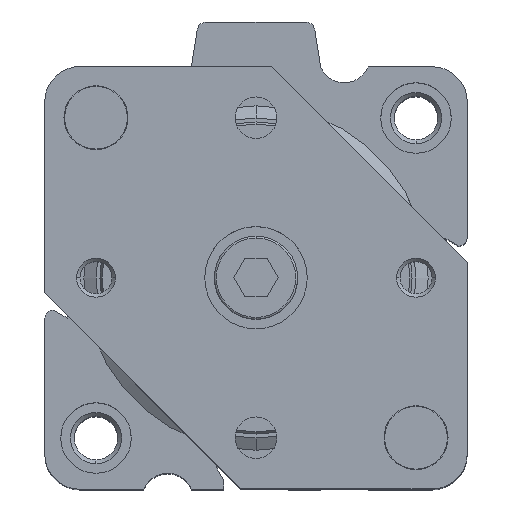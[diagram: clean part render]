
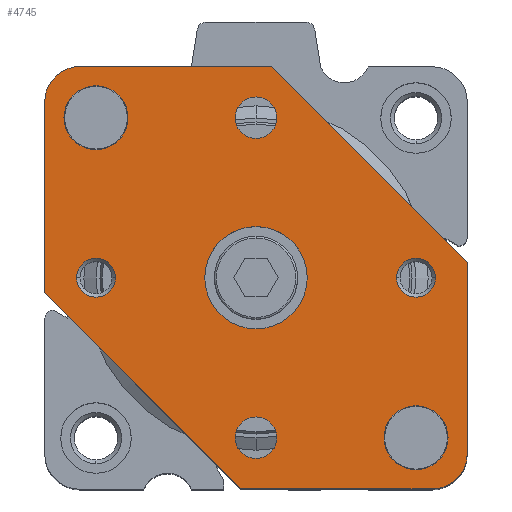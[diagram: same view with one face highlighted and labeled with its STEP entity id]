
A CAD part, top view. The second image highlights one B-rep face of the part: STEP entity #4745.
In plain terms, the highlighted planar face has unit normal (0, 0, 1).
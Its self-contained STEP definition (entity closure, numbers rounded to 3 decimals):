
#3685=CARTESIAN_POINT('',(0.,25.,0.));
#3686=DIRECTION('',(0.,0.,1.));
#3687=DIRECTION('',(-1.,0.,0.));
#3688=AXIS2_PLACEMENT_3D('',#3685,#3686,#3687);
#3690=CARTESIAN_POINT('',(0.,25.,0.));
#3691=DIRECTION('',(0.,0.,1.));
#3692=DIRECTION('',(1.,0.,0.));
#3693=AXIS2_PLACEMENT_3D('',#3690,#3691,#3692);
#3695=CARTESIAN_POINT('',(0.,-25.,0.));
#3696=DIRECTION('',(0.,0.,1.));
#3697=DIRECTION('',(-1.,0.,0.));
#3698=AXIS2_PLACEMENT_3D('',#3695,#3696,#3697);
#3700=CARTESIAN_POINT('',(0.,-25.,0.));
#3701=DIRECTION('',(0.,0.,1.));
#3702=DIRECTION('',(1.,0.,0.));
#3703=AXIS2_PLACEMENT_3D('',#3700,#3701,#3702);
#3705=DIRECTION('',(0.707,-0.707,0.));
#3706=VECTOR('',#3705,43.338);
#3707=CARTESIAN_POINT('',(2.355,33.,0.));
#3708=LINE('',#3707,#3706);
#3709=DIRECTION('',(0.,-1.,0.));
#3710=VECTOR('',#3709,29.855);
#3711=CARTESIAN_POINT('',(33.,2.355,0.));
#3712=LINE('',#3711,#3710);
#3713=CARTESIAN_POINT('',(27.5,-27.5,0.));
#3714=DIRECTION('',(0.,0.,-1.));
#3715=DIRECTION('',(1.,0.,0.));
#3716=AXIS2_PLACEMENT_3D('',#3713,#3714,#3715);
#3718=DIRECTION('',(-1.,0.,0.));
#3719=VECTOR('',#3718,29.855);
#3720=CARTESIAN_POINT('',(27.5,-33.,0.));
#3721=LINE('',#3720,#3719);
#3722=DIRECTION('',(-0.707,0.707,0.));
#3723=VECTOR('',#3722,43.338);
#3724=CARTESIAN_POINT('',(-2.355,-33.,0.));
#3725=LINE('',#3724,#3723);
#3726=DIRECTION('',(0.,1.,0.));
#3727=VECTOR('',#3726,29.855);
#3728=CARTESIAN_POINT('',(-33.,-2.355,0.));
#3729=LINE('',#3728,#3727);
#3730=CARTESIAN_POINT('',(-27.5,27.5,0.));
#3731=DIRECTION('',(0.,0.,-1.));
#3732=DIRECTION('',(-1.,0.,0.));
#3733=AXIS2_PLACEMENT_3D('',#3730,#3731,#3732);
#3735=DIRECTION('',(1.,0.,0.));
#3736=VECTOR('',#3735,29.855);
#3737=CARTESIAN_POINT('',(-27.5,33.,0.));
#3738=LINE('',#3737,#3736);
#3739=CARTESIAN_POINT('',(0.,0.,0.));
#3740=DIRECTION('',(0.,0.,1.));
#3741=DIRECTION('',(0.,1.,0.));
#3742=AXIS2_PLACEMENT_3D('',#3739,#3740,#3741);
#3744=CARTESIAN_POINT('',(0.,0.,0.));
#3745=DIRECTION('',(0.,0.,1.));
#3746=DIRECTION('',(0.,-1.,0.));
#3747=AXIS2_PLACEMENT_3D('',#3744,#3745,#3746);
#3759=CARTESIAN_POINT('',(-25.,25.,0.));
#3760=DIRECTION('',(0.,0.,1.));
#3761=DIRECTION('',(1.,0.,0.));
#3762=AXIS2_PLACEMENT_3D('',#3759,#3760,#3761);
#3764=CARTESIAN_POINT('',(-25.,25.,0.));
#3765=DIRECTION('',(0.,0.,1.));
#3766=DIRECTION('',(-1.,0.,0.));
#3767=AXIS2_PLACEMENT_3D('',#3764,#3765,#3766);
#3779=CARTESIAN_POINT('',(25.,-25.,0.));
#3780=DIRECTION('',(0.,0.,1.));
#3781=DIRECTION('',(1.,0.,0.));
#3782=AXIS2_PLACEMENT_3D('',#3779,#3780,#3781);
#3784=CARTESIAN_POINT('',(25.,-25.,0.));
#3785=DIRECTION('',(0.,0.,1.));
#3786=DIRECTION('',(-1.,0.,0.));
#3787=AXIS2_PLACEMENT_3D('',#3784,#3785,#3786);
#3952=CARTESIAN_POINT('',(25.,0.,0.));
#3953=DIRECTION('',(0.,0.,1.));
#3954=DIRECTION('',(1.,0.,0.));
#3955=AXIS2_PLACEMENT_3D('',#3952,#3953,#3954);
#3962=CARTESIAN_POINT('',(25.,0.,0.));
#3963=DIRECTION('',(0.,0.,1.));
#3964=DIRECTION('',(-1.,0.,0.));
#3965=AXIS2_PLACEMENT_3D('',#3962,#3963,#3964);
#4016=CARTESIAN_POINT('',(-25.,0.,0.));
#4017=DIRECTION('',(0.,0.,1.));
#4018=DIRECTION('',(1.,0.,0.));
#4019=AXIS2_PLACEMENT_3D('',#4016,#4017,#4018);
#4026=CARTESIAN_POINT('',(-25.,0.,0.));
#4027=DIRECTION('',(0.,0.,1.));
#4028=DIRECTION('',(-1.,0.,0.));
#4029=AXIS2_PLACEMENT_3D('',#4026,#4027,#4028);
#4463=CARTESIAN_POINT('',(-3.25,25.,0.));
#4464=CARTESIAN_POINT('',(3.25,25.,0.));
#4465=VERTEX_POINT('',#4463);
#4466=VERTEX_POINT('',#4464);
#4467=CARTESIAN_POINT('',(-3.25,-25.,0.));
#4468=CARTESIAN_POINT('',(3.25,-25.,0.));
#4469=VERTEX_POINT('',#4467);
#4470=VERTEX_POINT('',#4468);
#4471=CARTESIAN_POINT('',(-33.,27.5,0.));
#4472=CARTESIAN_POINT('',(-27.5,33.,0.));
#4473=VERTEX_POINT('',#4471);
#4474=VERTEX_POINT('',#4472);
#4475=CARTESIAN_POINT('',(33.,-27.5,0.));
#4476=CARTESIAN_POINT('',(27.5,-33.,0.));
#4477=VERTEX_POINT('',#4475);
#4478=VERTEX_POINT('',#4476);
#4487=CARTESIAN_POINT('',(2.355,33.,0.));
#4488=CARTESIAN_POINT('',(33.,2.355,0.));
#4489=VERTEX_POINT('',#4487);
#4490=VERTEX_POINT('',#4488);
#4491=CARTESIAN_POINT('',(-2.355,-33.,0.));
#4492=CARTESIAN_POINT('',(-33.,-2.355,0.));
#4493=VERTEX_POINT('',#4491);
#4494=VERTEX_POINT('',#4492);
#4503=CARTESIAN_POINT('',(-21.959,0.,0.));
#4504=CARTESIAN_POINT('',(-28.041,0.,0.));
#4505=VERTEX_POINT('',#4503);
#4506=VERTEX_POINT('',#4504);
#4511=CARTESIAN_POINT('',(28.041,0.,0.));
#4512=CARTESIAN_POINT('',(21.959,0.,0.));
#4513=VERTEX_POINT('',#4511);
#4514=VERTEX_POINT('',#4512);
#4551=CARTESIAN_POINT('',(0.,8.,0.));
#4552=CARTESIAN_POINT('',(0.,-8.,0.));
#4553=VERTEX_POINT('',#4551);
#4554=VERTEX_POINT('',#4552);
#4655=CARTESIAN_POINT('',(-20.,25.,0.));
#4656=CARTESIAN_POINT('',(-30.,25.,0.));
#4657=VERTEX_POINT('',#4655);
#4658=VERTEX_POINT('',#4656);
#4663=CARTESIAN_POINT('',(30.,-25.,0.));
#4664=CARTESIAN_POINT('',(20.,-25.,0.));
#4665=VERTEX_POINT('',#4663);
#4666=VERTEX_POINT('',#4664);
#4680=CARTESIAN_POINT('',(0.,0.,0.));
#4681=DIRECTION('',(0.,0.,1.));
#4682=DIRECTION('',(1.,0.,0.));
#4683=AXIS2_PLACEMENT_3D('',#4680,#4681,#4682);
#4684=PLANE('',#4683);
#4686=ORIENTED_EDGE('',*,*,#4685,.T.);
#4688=ORIENTED_EDGE('',*,*,#4687,.T.);
#4690=ORIENTED_EDGE('',*,*,#4689,.T.);
#4692=ORIENTED_EDGE('',*,*,#4691,.T.);
#4694=ORIENTED_EDGE('',*,*,#4693,.T.);
#4696=ORIENTED_EDGE('',*,*,#4695,.T.);
#4698=ORIENTED_EDGE('',*,*,#4697,.T.);
#4700=ORIENTED_EDGE('',*,*,#4699,.T.);
#4701=EDGE_LOOP('',(#4686,#4688,#4690,#4692,#4694,#4696,#4698,#4700));
#4702=FACE_OUTER_BOUND('',#4701,.F.);
#4704=ORIENTED_EDGE('',*,*,#4703,.T.);
#4706=ORIENTED_EDGE('',*,*,#4705,.T.);
#4707=EDGE_LOOP('',(#4704,#4706));
#4708=FACE_BOUND('',#4707,.F.);
#4710=ORIENTED_EDGE('',*,*,#4709,.T.);
#4712=ORIENTED_EDGE('',*,*,#4711,.T.);
#4713=EDGE_LOOP('',(#4710,#4712));
#4714=FACE_BOUND('',#4713,.F.);
#4716=ORIENTED_EDGE('',*,*,#4715,.T.);
#4718=ORIENTED_EDGE('',*,*,#4717,.T.);
#4719=EDGE_LOOP('',(#4716,#4718));
#4720=FACE_BOUND('',#4719,.F.);
#4722=ORIENTED_EDGE('',*,*,#4721,.T.);
#4724=ORIENTED_EDGE('',*,*,#4723,.T.);
#4725=EDGE_LOOP('',(#4722,#4724));
#4726=FACE_BOUND('',#4725,.F.);
#4728=ORIENTED_EDGE('',*,*,#4727,.T.);
#4730=ORIENTED_EDGE('',*,*,#4729,.T.);
#4731=EDGE_LOOP('',(#4728,#4730));
#4732=FACE_BOUND('',#4731,.F.);
#4734=ORIENTED_EDGE('',*,*,#4733,.T.);
#4736=ORIENTED_EDGE('',*,*,#4735,.T.);
#4737=EDGE_LOOP('',(#4734,#4736));
#4738=FACE_BOUND('',#4737,.F.);
#4740=ORIENTED_EDGE('',*,*,#4739,.T.);
#4742=ORIENTED_EDGE('',*,*,#4741,.T.);
#4743=EDGE_LOOP('',(#4740,#4742));
#4744=FACE_BOUND('',#4743,.F.);
#4745=ADVANCED_FACE('',(#4702,#4708,#4714,#4720,#4726,#4732,#4738,#4744),#4684,
.T.);
#3689=CIRCLE('',#3688,3.25);
#3694=CIRCLE('',#3693,3.25);
#3699=CIRCLE('',#3698,3.25);
#3704=CIRCLE('',#3703,3.25);
#3717=CIRCLE('',#3716,5.5);
#3734=CIRCLE('',#3733,5.5);
#3743=CIRCLE('',#3742,8.);
#3748=CIRCLE('',#3747,8.);
#3763=CIRCLE('',#3762,5.);
#3768=CIRCLE('',#3767,5.);
#3783=CIRCLE('',#3782,5.);
#3788=CIRCLE('',#3787,5.);
#3956=CIRCLE('',#3955,3.041);
#3966=CIRCLE('',#3965,3.041);
#4020=CIRCLE('',#4019,3.041);
#4030=CIRCLE('',#4029,3.041);
#4685=EDGE_CURVE('',#4489,#4490,#3708,.T.);
#4687=EDGE_CURVE('',#4490,#4477,#3712,.T.);
#4689=EDGE_CURVE('',#4477,#4478,#3717,.T.);
#4691=EDGE_CURVE('',#4478,#4493,#3721,.T.);
#4693=EDGE_CURVE('',#4493,#4494,#3725,.T.);
#4695=EDGE_CURVE('',#4494,#4473,#3729,.T.);
#4697=EDGE_CURVE('',#4473,#4474,#3734,.T.);
#4699=EDGE_CURVE('',#4474,#4489,#3738,.T.);
#4703=EDGE_CURVE('',#4465,#4466,#3689,.T.);
#4705=EDGE_CURVE('',#4466,#4465,#3694,.T.);
#4709=EDGE_CURVE('',#4469,#4470,#3699,.T.);
#4711=EDGE_CURVE('',#4470,#4469,#3704,.T.);
#4715=EDGE_CURVE('',#4514,#4513,#3966,.T.);
#4717=EDGE_CURVE('',#4513,#4514,#3956,.T.);
#4721=EDGE_CURVE('',#4506,#4505,#4030,.T.);
#4723=EDGE_CURVE('',#4505,#4506,#4020,.T.);
#4727=EDGE_CURVE('',#4553,#4554,#3743,.T.);
#4729=EDGE_CURVE('',#4554,#4553,#3748,.T.);
#4733=EDGE_CURVE('',#4657,#4658,#3763,.T.);
#4735=EDGE_CURVE('',#4658,#4657,#3768,.T.);
#4739=EDGE_CURVE('',#4665,#4666,#3783,.T.);
#4741=EDGE_CURVE('',#4666,#4665,#3788,.T.);
